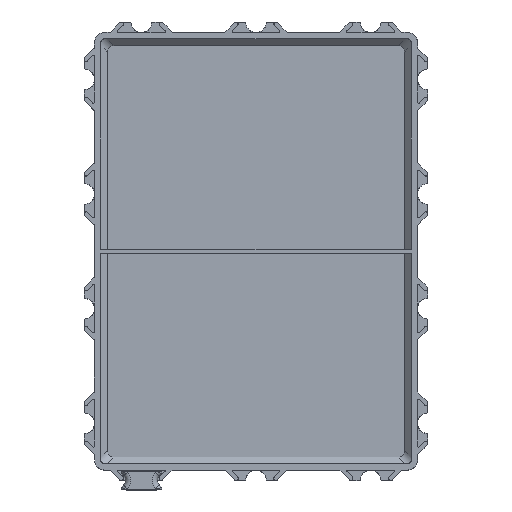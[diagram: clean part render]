
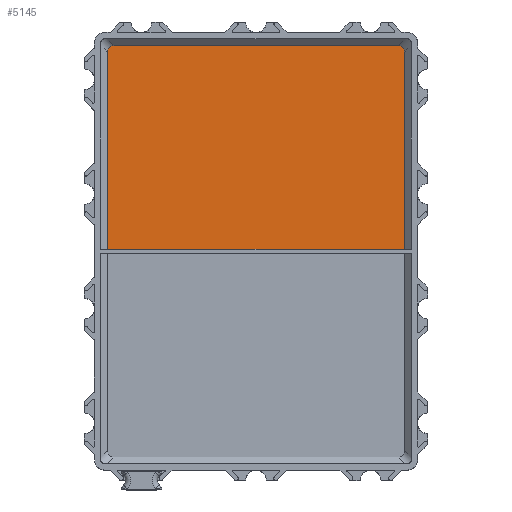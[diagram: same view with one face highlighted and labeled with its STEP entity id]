
A CAD part, top view. The second image highlights one B-rep face of the part: STEP entity #5145.
In plain terms, the highlighted planar face has unit normal (0, 0, 1).
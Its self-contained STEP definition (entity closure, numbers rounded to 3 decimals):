
#331=ELLIPSE('',#5442,3.118,1.8);
#332=ELLIPSE('',#5443,3.118,1.8);
#425=FACE_OUTER_BOUND('',#695,.T.);
#695=EDGE_LOOP('',(#3219,#3220,#3221,#3222,#3223,#3224));
#962=LINE('',#7555,#1444);
#980=LINE('',#7595,#1462);
#983=LINE('',#7604,#1465);
#984=LINE('',#7607,#1466);
#1444=VECTOR('',#5982,10.);
#1462=VECTOR('',#6012,10.);
#1465=VECTOR('',#6021,10.);
#1466=VECTOR('',#6024,10.);
#1925=VERTEX_POINT('',#7551);
#1927=VERTEX_POINT('',#7554);
#1943=VERTEX_POINT('',#7593);
#1945=VERTEX_POINT('',#7601);
#1946=VERTEX_POINT('',#7603);
#1947=VERTEX_POINT('',#7605);
#2426=EDGE_CURVE('',#1927,#1925,#962,.T.);
#2446=EDGE_CURVE('',#1925,#1943,#980,.T.);
#2449=EDGE_CURVE('',#1943,#1945,#331,.T.);
#2450=EDGE_CURVE('',#1945,#1946,#983,.T.);
#2451=EDGE_CURVE('',#1946,#1947,#332,.T.);
#2452=EDGE_CURVE('',#1947,#1927,#984,.T.);
#3219=ORIENTED_EDGE('',*,*,#2426,.T.);
#3220=ORIENTED_EDGE('',*,*,#2446,.T.);
#3221=ORIENTED_EDGE('',*,*,#2449,.T.);
#3222=ORIENTED_EDGE('',*,*,#2450,.T.);
#3223=ORIENTED_EDGE('',*,*,#2451,.T.);
#3224=ORIENTED_EDGE('',*,*,#2452,.T.);
#4723=PLANE('',#5441);
#5145=ADVANCED_FACE('',(#425),#4723,.F.);
#5441=AXIS2_PLACEMENT_3D('',#7600,#6017,#6018);
#5442=AXIS2_PLACEMENT_3D('',#7602,#6019,#6020);
#5443=AXIS2_PLACEMENT_3D('',#7606,#6022,#6023);
#5982=DIRECTION('',(1.,0.,0.));
#6012=DIRECTION('',(0.,1.,0.));
#6017=DIRECTION('center_axis',(0.,0.,-1.));
#6018=DIRECTION('ref_axis',(-1.,0.,0.));
#6019=DIRECTION('center_axis',(0.,0.,1.));
#6020=DIRECTION('ref_axis',(0.707,0.707,0.));
#6021=DIRECTION('',(-1.,0.,0.));
#6022=DIRECTION('center_axis',(0.,0.,1.));
#6023=DIRECTION('ref_axis',(-0.707,0.707,0.));
#6024=DIRECTION('',(0.,-1.,0.));
#7551=CARTESIAN_POINT('',(61.503,44.4,-10.));
#7554=CARTESIAN_POINT('',(4.497,44.4,-10.));
#7555=CARTESIAN_POINT('',(33.,44.4,-10.));
#7593=CARTESIAN_POINT('',(61.503,82.23,-10.));
#7595=CARTESIAN_POINT('',(61.503,54.5,-10.));
#7600=CARTESIAN_POINT('Origin',(33.,44.,-10.));
#7601=CARTESIAN_POINT('',(60.23,83.503,-10.));
#7602=CARTESIAN_POINT('Origin',(58.957,80.957,-10.));
#7603=CARTESIAN_POINT('',(5.77,83.503,-10.));
#7604=CARTESIAN_POINT('',(25.25,83.503,-10.));
#7605=CARTESIAN_POINT('',(4.497,82.23,-10.));
#7606=CARTESIAN_POINT('Origin',(7.043,80.957,-10.));
#7607=CARTESIAN_POINT('',(4.497,33.5,-10.));
